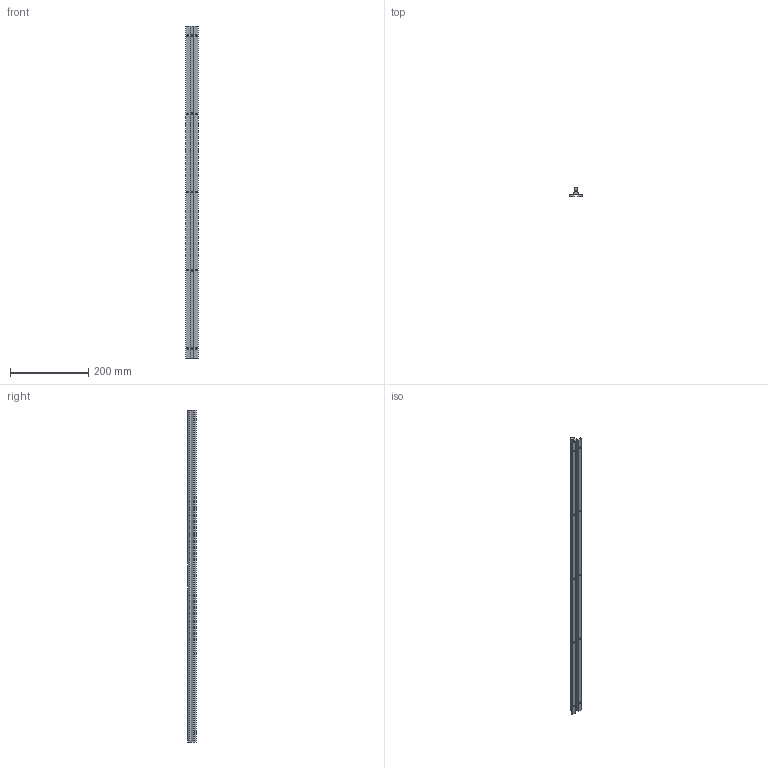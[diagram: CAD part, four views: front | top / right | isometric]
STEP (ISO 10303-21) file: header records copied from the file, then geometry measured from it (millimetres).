
FILE_DESCRIPTION (( 'STEP AP214' ), '1' );
FILE_NAME ('SBR10-850.STEP', '2025-09-17T14:43:57', ( '' ), ( '' ), 'SwSTEP 2.0', 'SolidWorks 2019', '' );
FILE_SCHEMA (( 'AUTOMOTIVE_DESIGN' ));
Length unit declared in the file: millimetre
Products named in the file (1): SBR10-850
Bounding box: 32 x 22.5 x 850 mm (x, y, z)
Volume: 212283.3 mm3; surface area: 107578.8 mm2
Topology: 2 solids, 2 shells, 85 faces, 248 edges, 162 vertices
Faces by surface type: cylinder 54, plane 31
Entity records: 3503 total; most frequent: CARTESIAN_POINT 1186, ORIENTED_EDGE 496, DIRECTION 448, EDGE_CURVE 248, AXIS2_PLACEMENT_3D 164, VERTEX_POINT 162, EDGE_LOOP 120, LINE 120
